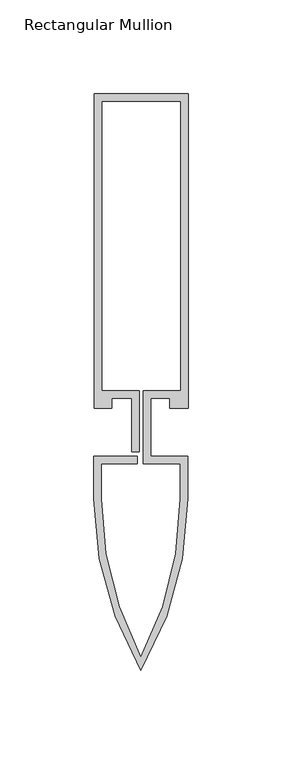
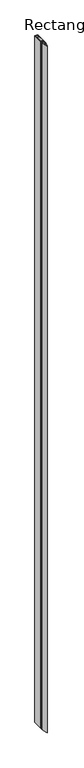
"""IFC4 building model written with IfcOpenShell, lengths in millimetres: member geometry, Rectangular Mullion : Reynaers_CW-50_Transom-Transom_167.5mm_Facecap-05."""

from ifc_helpers import new_model, si_unit, point, frame, frame_2d, origin, place, context, project, spatial, polyline, circle_curve, trimmed, segment, composite_curve, outline, extrude, source, transform, mapped, element, save


def rectangular_mullion_4d24ccfb(model_context):
    return source(origin(), model_context, "Body", "SweptSolid", [
        extrude(outline(composite_curve([segment(polyline([(25.1995941, 12.7331291), (15.499, 12.7331291), (15.499, 18.1331291), (5.2995941, 18.1331291), (5.2995941, -12.7331291), (24.994845, -12.7331291), (24.994845, -35.5313894)]), True, "CONTINUOUS"), segment(trimmed(circle_curve(frame_2d((-153.8920333, -35.5313894)), 178.8868784), [point((24.994845, -35.5313894))], [point((0.0, -126.7331291))], False, "CARTESIAN"), True, "CONTINUOUS"), segment(trimmed(circle_curve(frame_2d((153.8920333, -35.5313894)), 178.8868784), [point((0.0, -126.7331291))], [point((-24.994845, -35.5313894))], False, "CARTESIAN"), True, "CONTINUOUS"), segment(polyline([(-24.994845, -35.5313894), (-24.994845, -12.7331291), (-1.9004059, -12.7331291), (-1.9004059, -16.7331291), (-20.994845, -16.7331291), (-20.994845, -35.5313894)]), True, "CONTINUOUS"), segment(trimmed(circle_curve(frame_2d((158.3679339, -35.5313894)), 179.3627789), [point((-20.994845, -35.5313894))], [point((0.0, -119.7371135))], True, "CARTESIAN"), True, "CONTINUOUS"), segment(trimmed(circle_curve(frame_2d((-158.3679339, -35.5313894)), 179.3627789), [point((0.0, -119.7371135))], [point((20.994845, -35.5313894))], True, "CARTESIAN"), True, "CONTINUOUS"), segment(polyline([(20.994845, -35.5313894), (20.994845, -16.7331291), (1.2995941, -16.7331291), (1.2995941, 22.1331291), (21.1995941, 22.1331291), (21.1995941, 176.2331291), (-20.8004059, 176.2331291), (-20.8004059, 22.1331291), (-0.9004059, 22.1331291), (-0.9004059, -10.5), (-4.9004059, -10.5), (-4.9004059, 18.1331291), (-15.499, 18.1331291), (-15.499, 12.7331291), (-24.8004059, 12.7331291), (-24.8004059, 180.2331291), (25.1995941, 180.2331291), (25.1995941, 12.7331291)]), True, "CONTINUOUS")], self_intersect=False)), frame((0.0, 0.0, -12000.0), z_axis=(0.0, 0.0, 1.0), x_axis=(1.0, 0.0, 0.0)), (0.0, 0.0, 1.0), 12000.0),
    ])


if __name__ == "__main__":
    model = new_model("IFC4")
    model_context = context("Model", 3, world=origin())
    ifc_project = project(units=[si_unit("LENGTHUNIT", "METRE", prefix="MILLI")], contexts=[model_context])
    site = spatial("IfcSite", under=ifc_project)
    building = spatial("IfcBuilding", under=site)
    placement = place(None, origin())
    rectangular_mullion_shape = rectangular_mullion_4d24ccfb(model_context)
    element("IfcMember", 1, ObjectType="Rectangular Mullion : Reynaers_CW-50_Transom-Transom_167.5mm_Facecap-05", at=placement, inside=building, context=model_context, shape_type="MappedRepresentation", body=[
        mapped(rectangular_mullion_shape, transform((0.0, 0.0, 0.0), x_axis=(1.0, 0.0, 0.0), y_axis=(0.0, 1.0, 0.0), z_axis=(0.0, 0.0, 1.0))),
    ])
    save(model, "model.ifc")
